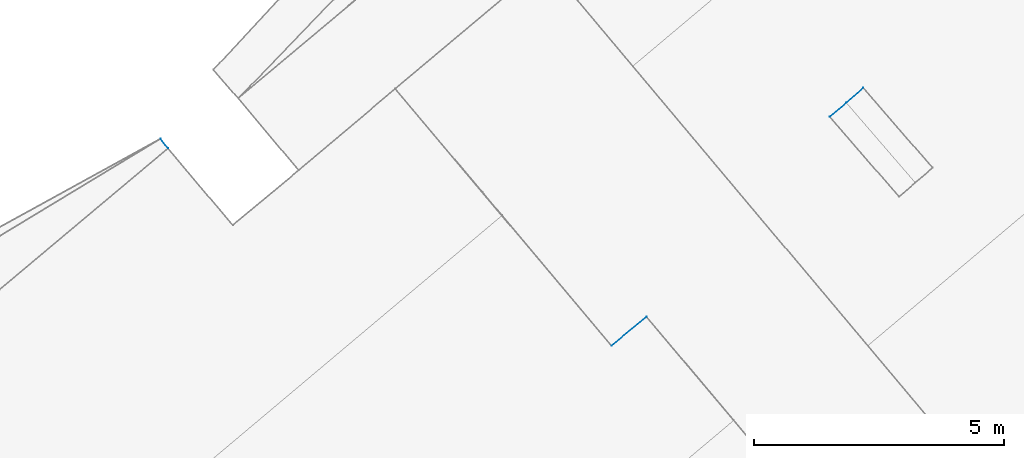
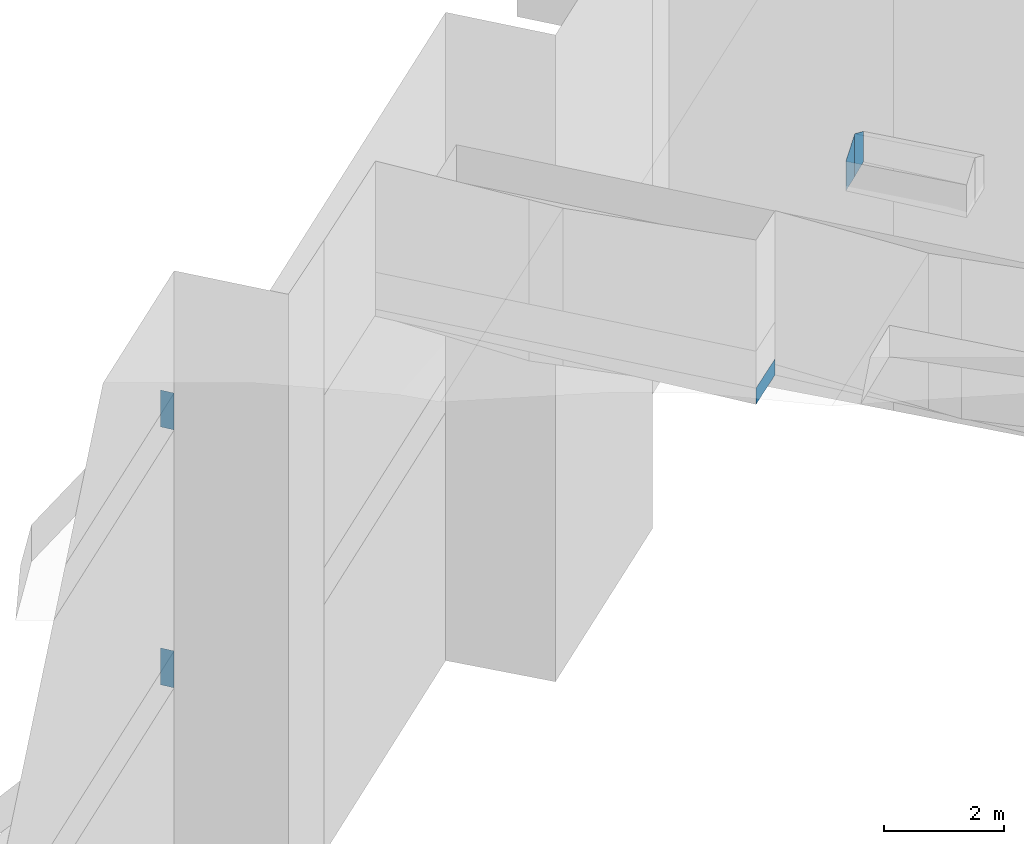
# Not in any storey, part 102 of 136: 7 walls.
"""IFC4 building model written with IfcOpenShell, lengths in metres."""

import ifcopenshell
import ifcopenshell.guid

model = None  # the IFC model being written
_history = None  # IfcOwnerHistory: only IFC2X3 demands one
_inside = {}  # id of a spatial element -> (the spatial element, [elements in it])
_under = {}  # id of a project, library or spatial element -> (it, [spatial elements below it])
_declared = {}  # id of a project -> (the project, [libraries it declares])
_typed = {}  # id of a type object -> (the type object, [elements of that type])
_made_of = {}  # id of a material, layer set ... -> (it, [elements and type objects made of it])


def new_model(schema):
    """Start an empty IFC model of exactly this schema.

    Asked for "IFC4X3", IfcOpenShell would pick the latest addendum, in which some entities
    have other attributes; the version numbers below select the first issue.
    IFC2X3 requires an IfcOwnerHistory on every rooted entity: one is made here for all.
    """
    global model, _history
    if schema == "IFC4X3":
        model = ifcopenshell.file(schema_version=(4, 3, 0, 0))
    else:
        model = ifcopenshell.file(schema=schema)
    _inside.clear()
    _under.clear()
    _declared.clear()
    _typed.clear()
    _made_of.clear()
    _history = None
    if model.schema == "IFC2X3":
        org = make("IfcOrganization", Name="unknown")
        user = make(
            "IfcPersonAndOrganization",
            ThePerson=make("IfcPerson", FamilyName="unknown"),
            TheOrganization=org,
        )
        app = make(
            "IfcApplication",
            ApplicationDeveloper=org,
            Version="unknown",
            ApplicationFullName="unknown",
            ApplicationIdentifier="unknown",
        )
        _history = make(
            "IfcOwnerHistory",
            OwningUser=user,
            OwningApplication=app,
            ChangeAction="ADDED",
            CreationDate=0,
        )
    return model


def make(cls, **values):
    """One entity of the class cls with the attributes given. An attribute that is None is left unset."""
    return model.create_entity(
        cls, **{name: value for name, value in values.items() if value is not None}
    )


def entity(cls, *values):
    """Any entity or typed value of the class cls, its attributes in the order of the schema. None: left unset."""
    e = model.create_entity(cls)
    for i, value in enumerate(values):
        if value is not None:
            e[i] = value
    return e


def rooted(cls, **values):
    """An entity with a GlobalId (a new one), such as an element, a storey or a relation."""
    return make(cls, GlobalId=ifcopenshell.guid.new(), OwnerHistory=_history, **values)


def si_unit(unit_type, name, prefix=None):
    """IfcSIUnit, for example si_unit("LENGTHUNIT", "METRE", prefix="MILLI")."""
    return make("IfcSIUnit", UnitType=unit_type, Prefix=prefix, Name=name)


def converted_unit(unit_type, name, factor, base, dimensions=None, offset=None):
    """IfcConversionBasedUnit, such as the inch: factor (a typed value) times the base unit."""
    return make(
        "IfcConversionBasedUnit"
        if offset is None
        else "IfcConversionBasedUnitWithOffset",
        ConversionOffset=offset,
        Dimensions=None
        if dimensions is None
        else entity("IfcDimensionalExponents", *dimensions),
        UnitType=unit_type,
        Name=name,
        ConversionFactor=make(
            "IfcMeasureWithUnit", ValueComponent=factor, UnitComponent=base
        ),
    )


def assignment(units):
    """IfcUnitAssignment: the units of a project."""
    return None if units is None else make("IfcUnitAssignment", Units=units)


def point(xyz):
    """IfcCartesianPoint."""
    return None if xyz is None else make("IfcCartesianPoint", Coordinates=xyz)


def direction(xyz):
    """IfcDirection."""
    return None if xyz is None else make("IfcDirection", DirectionRatios=xyz)


def frame(location, z_axis=None, x_axis=None):
    """IfcAxis2Placement3D, a coordinate frame: its origin and axes. An axis left out is left unset."""
    return make(
        "IfcAxis2Placement3D",
        Location=point(location),
        Axis=direction(z_axis),
        RefDirection=direction(x_axis),
    )


def origin():
    """The frame at (0, 0, 0) with its axes left unset."""
    return frame((0.0, 0.0, 0.0))


def place(relative_to, where):
    """IfcLocalPlacement: puts the frame where relative to a parent placement (None: the world)."""
    return make(
        "IfcLocalPlacement", PlacementRelTo=relative_to, RelativePlacement=where
    )


def context(
    kind, dimensions, precision=None, world=None, true_north=None, identifier=None
):
    """IfcGeometricRepresentationContext, for example the 3D "Model" context."""
    return make(
        "IfcGeometricRepresentationContext",
        ContextIdentifier=identifier,
        ContextType=kind,
        CoordinateSpaceDimension=dimensions,
        Precision=precision,
        WorldCoordinateSystem=world,
        TrueNorth=true_north,
    )


def subcontext(parent, identifier, kind, view, scale=None):
    """IfcGeometricRepresentationSubContext, for example "Body" below "Model"."""
    return make(
        "IfcGeometricRepresentationSubContext",
        ContextIdentifier=identifier,
        ContextType=kind,
        ParentContext=parent,
        TargetScale=scale,
        TargetView=view,
    )


def project(units=None, contexts=None):
    """IfcProject with its units and contexts."""
    return rooted(
        "IfcProject",
        Name="project",
        RepresentationContexts=contexts,
        UnitsInContext=assignment(units),
    )


def spatial(cls, under=None, at=None, **own):
    """A site, building, storey or space (cls), placed at a placement, below another one or the project."""
    s = rooted(cls, ObjectPlacement=at, **own)
    if under is not None:
        _under.setdefault(under.id(), (under, []))[1].append(s)
    return s


def faces_of(points, faces, orient=None, outer=None):
    """IfcFace entities. A face is a list of loops; a loop is a list of indices into points, from 0.

    orient and outer hold one flag for each loop. By default every Orientation is true, the
    first loop of a face is its IfcFaceOuterBound and the others are IfcFaceBound.
    """
    made = []
    for i, loops in enumerate(faces):
        bounds = []
        for j, loop in enumerate(loops):
            is_outer = j == 0 if outer is None else outer[i][j]
            bounds.append(
                make(
                    "IfcFaceOuterBound" if is_outer else "IfcFaceBound",
                    Bound=make("IfcPolyLoop", Polygon=[points[k] for k in loop]),
                    Orientation=True if orient is None else orient[i][j],
                )
            )
        made.append(make("IfcFace", Bounds=bounds))
    return made


def face_set(faces, orient=None, outer=None):
    """The faces of one IfcConnectedFaceSet. surface_model builds it on its shared points."""
    return ("IfcConnectedFaceSet", faces, orient, outer)


def surface_model(cls, points, shells):
    """IfcFaceBasedSurfaceModel or IfcShellBasedSurfaceModel (cls): surfaces that need not close."""
    shared = [point(p) for p in points]
    made = [make(c, CfsFaces=faces_of(shared, fs, o, b)) for c, fs, o, b in shells]
    if cls == "IfcFaceBasedSurfaceModel":
        return make(cls, FbsmFaces=made)
    return make(cls, SbsmBoundary=made)


def shape(context_of_items, identifier, shape_type, items):
    """IfcShapeRepresentation: the items that make up one representation, for example the "Body"."""
    return make(
        "IfcShapeRepresentation",
        ContextOfItems=context_of_items,
        RepresentationIdentifier=identifier,
        RepresentationType=shape_type,
        Items=items,
    )


def made_of(thing, what):
    """Note that an element or type object is made of a material, layer set ...; save() writes the relation."""
    if what is not None:
        _made_of.setdefault(what.id(), (what, []))[1].append(thing)
    return thing


def element(
    cls,
    number,
    at=None,
    inside=None,
    cuts=None,
    type_object=None,
    material=None,
    context=None,
    identifier="Body",
    shape_type=None,
    held_by="IfcProductDefinitionShape",
    body=None,
    shapes=None,
    **own,
):
    """One element of the class cls, such as IfcWall. Its Tag is "e" and its number.

    at: its placement. inside: the storey or other place that contains it. cuts: it is an
    opening in that element (IfcRelVoidsElement). A single representation is given by context,
    identifier, shape_type and body (its items); several are given by shapes. held_by: the class
    of the entity that holds the representations. save() writes the other relations.
    """
    e = rooted(cls, Tag="e%d" % number, ObjectPlacement=at, **own)
    if body is not None:
        shapes = [shape(context, identifier, shape_type, body)]
    if shapes is not None:
        e.Representation = make(held_by, Representations=shapes)
    if inside is not None:
        _inside.setdefault(inside.id(), (inside, []))[1].append(e)
    if cuts is not None:
        rooted(
            "IfcRelVoidsElement", RelatingBuildingElement=cuts, RelatedOpeningElement=e
        )
    if type_object is not None:
        _typed.setdefault(type_object.id(), (type_object, []))[1].append(e)
    return made_of(e, material)


def aggregate(whole, parts):
    """IfcRelAggregates: a whole, such as a stair, and the parts it consists of."""
    return rooted("IfcRelAggregates", RelatingObject=whole, RelatedObjects=parts)


def save(model, path):
    """Write the relations noted so far, then the file.

    IfcRelAggregates (storeys below a building ...), IfcRelContainedInSpatialStructure (elements
    in a storey), IfcRelDefinesByType, IfcRelAssociatesMaterial and IfcRelDeclares: one each for
    every whole, place, type object, material and project.
    """
    for whole, parts in _under.values():
        aggregate(whole, parts)
    for where, things in _inside.values():
        rooted(
            "IfcRelContainedInSpatialStructure",
            RelatedElements=things,
            RelatingStructure=where,
        )
    for kind, things in _typed.values():
        rooted("IfcRelDefinesByType", RelatedObjects=things, RelatingType=kind)
    for what, things in _made_of.values():
        rooted("IfcRelAssociatesMaterial", RelatedObjects=things, RelatingMaterial=what)
    for by, libraries in _declared.values():
        rooted("IfcRelDeclares", RelatingContext=by, RelatedDefinitions=libraries)
    model.write(path)


model = new_model("IFC4")

# Units and contexts
model_context = context("Model", 3, precision=1e-05, world=origin())
body_context = subcontext(model_context, "Body", "Model", "MODEL_VIEW")
ifc_project = project(units=[converted_unit("PLANEANGLEUNIT", "DEGREE", entity("IfcRatioMeasure", 0.0174532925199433), si_unit("PLANEANGLEUNIT", "RADIAN"), dimensions=[0, 0, 0, 0, 0, 0, 0]), si_unit("AREAUNIT", "SQUARE_METRE"), si_unit("LENGTHUNIT", "METRE")], contexts=[model_context])

# Site, building
site_placement = place(None, origin())
site = spatial("IfcSite", under=ifc_project, at=site_placement, Name="_site")
building_placement = place(site_placement, origin())
building = spatial("IfcBuilding", under=site, at=building_placement, Name="_building")

# Walls
wall_1_placement = place(building_placement, origin())
element("IfcWall", 1, at=wall_1_placement, inside=building, Name="Wall", PredefinedType="NOTDEFINED", context=body_context, shape_type="SurfaceModel", body=[
    surface_model("IfcFaceBasedSurfaceModel", [(41.98, 71.311, 51.18), (42.13, 71.12, 51.18), (42.13, 71.12, 51.93), (41.98, 71.311, 51.93)], [face_set([[[0, 1, 2, 3]]])]),
])
for number, where, name in (
    (2, (0.0, 0.0, 0.0), "Wall"),
    (3, (0.0, 0.0, 0.0), "Wall"),
):
    element("IfcWall", number, at=place(building_placement, frame(where)), inside=building, Name=name, PredefinedType="NOTDEFINED", context=body_context, shape_type="SurfaceModel", body=[
        surface_model("IfcFaceBasedSurfaceModel", [(41.98, 71.311, 45.95), (42.13, 71.12, 45.95), (42.13, 71.12, 46.7), (41.98, 71.311, 46.7)], [face_set([[[0, 1, 2, 3]]])]),
    ])
wall_2_placement = place(building_placement, origin())
element("IfcWall", 4, at=wall_2_placement, inside=building, Name="Wall", PredefinedType="NOTDEFINED", context=body_context, shape_type="SurfaceModel", body=[
    surface_model("IfcFaceBasedSurfaceModel", [(55.71, 72.03, 51.88), (56.05, 72.33, 51.63), (56.05, 72.33, 51.009), (55.71, 72.03, 51.008)], [face_set([[[0, 1, 2, 3]]])]),
])
wall_3_placement = place(building_placement, origin())
element("IfcWall", 5, at=wall_3_placement, inside=building, Name="Wall", PredefinedType="NOTDEFINED", context=body_context, shape_type="SurfaceModel", body=[
    surface_model("IfcFaceBasedSurfaceModel", [(41.98, 71.311, 51.18), (42.13, 71.12, 51.18), (42.13, 71.12, 51.93), (41.98, 71.311, 51.93)], [face_set([[[0, 1, 2, 3]]])]),
])
wall_4_placement = place(building_placement, origin())
element("IfcWall", 6, at=wall_4_placement, inside=building, Name="Wall", PredefinedType="NOTDEFINED", context=body_context, shape_type="SurfaceModel", body=[
    surface_model("IfcFaceBasedSurfaceModel", [(55.38, 71.75, 51.61), (55.71, 72.03, 51.88), (55.71, 72.03, 51.008), (55.38, 71.75, 51.008)], [face_set([[[0, 1, 2, 3]]])]),
])
wall_5_placement = place(building_placement, origin())
element("IfcWall", 7, at=wall_5_placement, inside=building, Name="Wall", PredefinedType="NOTDEFINED", context=body_context, shape_type="SurfaceModel", body=[
    surface_model("IfcFaceBasedSurfaceModel", [(51.71, 67.75, 51.314), (51.01, 67.17, 51.314), (51.01, 67.17, 50.985), (51.71, 67.75, 50.986)], [face_set([[[0, 1, 2, 3]]])]),
])

save(model, "model.ifc")
